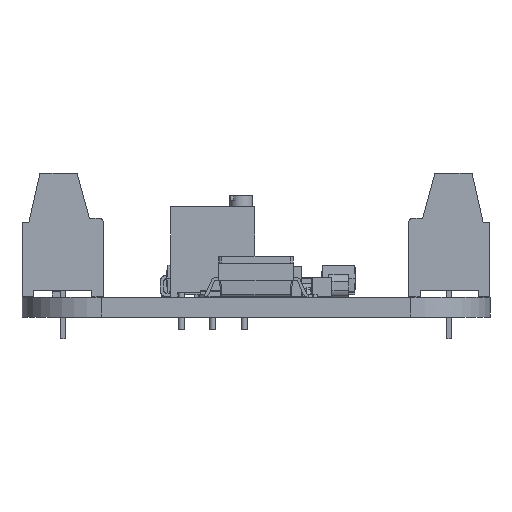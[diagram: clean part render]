
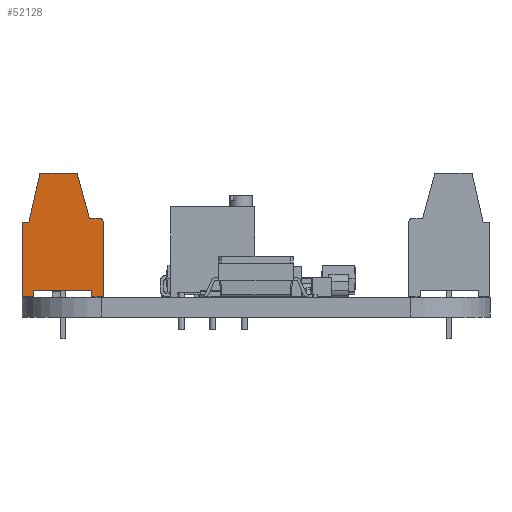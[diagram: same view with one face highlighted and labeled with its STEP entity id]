
A CAD part, front view. The second image highlights one B-rep face of the part: STEP entity #52128.
In plain terms, the highlighted planar face has unit normal (0, -1, 0) as drawn and (1, 0, 0) by its records, which use the part's own axes.
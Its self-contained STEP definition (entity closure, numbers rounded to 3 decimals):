
#16 = LINE ( 'NONE', #38557, #14002 ) ;
#371 = CARTESIAN_POINT ( 'NONE',  ( 4.04, -2.35, -9.5 ) ) ;
#465 = LINE ( 'NONE', #23152, #3005 ) ;
#1312 = VERTEX_POINT ( 'NONE', #33992 ) ;
#1932 = CARTESIAN_POINT ( 'NONE',  ( 4.04, 2.95, -3.65 ) ) ;
#1952 = EDGE_CURVE ( 'NONE', #24287, #38893, #28465, .T. ) ;
#2384 = EDGE_CURVE ( 'NONE', #56903, #17469, #16110, .T. ) ;
#3005 = VECTOR ( 'NONE', #60212, 1000. ) ;
#3838 = VECTOR ( 'NONE', #67532, 1000. ) ;
#4138 = AXIS2_PLACEMENT_3D ( 'NONE', #20675, #62319, #47189 ) ;
#4534 = CARTESIAN_POINT ( 'NONE',  ( 4.04, -2.75, -4. ) ) ;
#4805 = DIRECTION ( 'NONE',  ( 0., 1., 0. ) ) ;
#5086 = EDGE_CURVE ( 'NONE', #15614, #25276, #16, .T. ) ;
#6290 = LINE ( 'NONE', #27378, #57010 ) ;
#6378 = EDGE_CURVE ( 'NONE', #25276, #34164, #19396, .T. ) ;
#7087 = ORIENTED_EDGE ( 'NONE', *, *, #2384, .F. ) ;
#7763 = CARTESIAN_POINT ( 'NONE',  ( 4.04, 1.15, 0. ) ) ;
#7793 = ORIENTED_EDGE ( 'NONE', *, *, #5086, .F. ) ;
#7873 = EDGE_CURVE ( 'NONE', #34164, #24287, #20701, .T. ) ;
#8668 = CARTESIAN_POINT ( 'NONE',  ( 4.04, 2.35, -9.5 ) ) ;
#13405 = ORIENTED_EDGE ( 'NONE', *, *, #50132, .F. ) ;
#14002 = VECTOR ( 'NONE', #17944, 1000. ) ;
#14550 = CARTESIAN_POINT ( 'NONE',  ( 4.04, -3.25, 0. ) ) ;
#14774 = DIRECTION ( 'NONE',  ( 0., 0., 1. ) ) ;
#14830 = VERTEX_POINT ( 'NONE', #64432 ) ;
#15614 = VERTEX_POINT ( 'NONE', #55909 ) ;
#15852 = DIRECTION ( 'NONE',  ( 0., 0., -1. ) ) ;
#16110 = CIRCLE ( 'NONE', #26938, 0.3 ) ;
#16645 = VECTOR ( 'NONE', #56237, 1000. ) ;
#16652 = LINE ( 'NONE', #34708, #55090 ) ;
#16978 = EDGE_CURVE ( 'NONE', #57117, #23549, #30093, .T. ) ;
#17032 = VECTOR ( 'NONE', #59746, 1000. ) ;
#17201 = EDGE_CURVE ( 'NONE', #43767, #15614, #465, .T. ) ;
#17469 = VERTEX_POINT ( 'NONE', #27247 ) ;
#17944 = DIRECTION ( 'NONE',  ( 0., 0., 1. ) ) ;
#18117 = EDGE_CURVE ( 'NONE', #48507, #14830, #16652, .T. ) ;
#18386 = EDGE_CURVE ( 'NONE', #17469, #43767, #53386, .T. ) ;
#18661 = ORIENTED_EDGE ( 'NONE', *, *, #18386, .F. ) ;
#19396 = LINE ( 'NONE', #46252, #3838 ) ;
#19398 = EDGE_LOOP ( 'NONE', ( #28362, #60716, #13405, #24752, #43853, #40510, #7793, #57174, #18661, #7087, #52292, #57812, #47531 ) ) ;
#19808 = PLANE ( 'NONE',  #4138 ) ;
#20675 = CARTESIAN_POINT ( 'NONE',  ( 4.04, 0., 0. ) ) ;
#20701 = LINE ( 'NONE', #28836, #16645 ) ;
#23152 = CARTESIAN_POINT ( 'NONE',  ( 4.04, 0., -10. ) ) ;
#23549 = VERTEX_POINT ( 'NONE', #59697 ) ;
#24287 = VERTEX_POINT ( 'NONE', #61788 ) ;
#24752 = ORIENTED_EDGE ( 'NONE', *, *, #1952, .F. ) ;
#25276 = VERTEX_POINT ( 'NONE', #8668 ) ;
#26938 = AXIS2_PLACEMENT_3D ( 'NONE', #60236, #54960, #34197 ) ;
#27247 = CARTESIAN_POINT ( 'NONE',  ( 4.04, 3.25, -3.95 ) ) ;
#27378 = CARTESIAN_POINT ( 'NONE',  ( 4.04, 0., 0. ) ) ;
#28336 = EDGE_CURVE ( 'NONE', #14830, #56903, #51620, .T. ) ;
#28362 = ORIENTED_EDGE ( 'NONE', *, *, #16978, .F. ) ;
#28465 = LINE ( 'NONE', #54461, #17032 ) ;
#28836 = CARTESIAN_POINT ( 'NONE',  ( 4.04, -2.35, 0. ) ) ;
#30093 = LINE ( 'NONE', #4534, #45579 ) ;
#31317 = DIRECTION ( 'NONE',  ( 0., 0.22, 0.976 ) ) ;
#33992 = CARTESIAN_POINT ( 'NONE',  ( 4.04, -3.25, -4. ) ) ;
#34164 = VERTEX_POINT ( 'NONE', #371 ) ;
#34197 = DIRECTION ( 'NONE',  ( 0., 0., -1. ) ) ;
#34708 = CARTESIAN_POINT ( 'NONE',  ( 4.04, 1.15, 0. ) ) ;
#36033 = CARTESIAN_POINT ( 'NONE',  ( 4.04, -3.25, -4. ) ) ;
#37777 = CARTESIAN_POINT ( 'NONE',  ( 4.04, 3.25, -10. ) ) ;
#38557 = CARTESIAN_POINT ( 'NONE',  ( 4.04, 2.35, 0. ) ) ;
#38882 = LINE ( 'NONE', #14550, #51143 ) ;
#38893 = VERTEX_POINT ( 'NONE', #41331 ) ;
#40510 = ORIENTED_EDGE ( 'NONE', *, *, #6378, .F. ) ;
#41331 = CARTESIAN_POINT ( 'NONE',  ( 4.04, -3.25, -10. ) ) ;
#43767 = VERTEX_POINT ( 'NONE', #37777 ) ;
#43853 = ORIENTED_EDGE ( 'NONE', *, *, #7873, .F. ) ;
#45274 = EDGE_CURVE ( 'NONE', #23549, #48507, #6290, .T. ) ;
#45445 = LINE ( 'NONE', #36033, #55272 ) ;
#45579 = VECTOR ( 'NONE', #31317, 1000. ) ;
#45659 = EDGE_CURVE ( 'NONE', #1312, #57117, #45445, .T. ) ;
#46252 = CARTESIAN_POINT ( 'NONE',  ( 4.04, 0., -9.5 ) ) ;
#47189 = DIRECTION ( 'NONE',  ( 0., 0., 1. ) ) ;
#47531 = ORIENTED_EDGE ( 'NONE', *, *, #45274, .F. ) ;
#48507 = VERTEX_POINT ( 'NONE', #7763 ) ;
#50132 = EDGE_CURVE ( 'NONE', #38893, #1312, #38882, .T. ) ;
#51143 = VECTOR ( 'NONE', #14774, 1000. ) ;
#51307 = DIRECTION ( 'NONE',  ( 0., 1., 0. ) ) ;
#51620 = LINE ( 'NONE', #67719, #64654 ) ;
#51755 = VECTOR ( 'NONE', #15852, 1000. ) ;
#52128 = ADVANCED_FACE ( 'NONE', ( #56861 ), #19808, .F. ) ;
#52292 = ORIENTED_EDGE ( 'NONE', *, *, #28336, .F. ) ;
#53088 = CARTESIAN_POINT ( 'NONE',  ( 4.04, 3.25, 0. ) ) ;
#53173 = DIRECTION ( 'NONE',  ( 0., 1., 0. ) ) ;
#53386 = LINE ( 'NONE', #53088, #51755 ) ;
#54461 = CARTESIAN_POINT ( 'NONE',  ( 4.04, 0., -10. ) ) ;
#54960 = DIRECTION ( 'NONE',  ( -1., 0., 0. ) ) ;
#55090 = VECTOR ( 'NONE', #60977, 1000. ) ;
#55272 = VECTOR ( 'NONE', #51307, 1000. ) ;
#55909 = CARTESIAN_POINT ( 'NONE',  ( 4.04, 2.35, -10. ) ) ;
#56237 = DIRECTION ( 'NONE',  ( 0., 0., -1. ) ) ;
#56861 = FACE_OUTER_BOUND ( 'NONE', #19398, .T. ) ;
#56903 = VERTEX_POINT ( 'NONE', #1932 ) ;
#57010 = VECTOR ( 'NONE', #53173, 1000. ) ;
#57117 = VERTEX_POINT ( 'NONE', #62497 ) ;
#57174 = ORIENTED_EDGE ( 'NONE', *, *, #17201, .F. ) ;
#57812 = ORIENTED_EDGE ( 'NONE', *, *, #18117, .F. ) ;
#59697 = CARTESIAN_POINT ( 'NONE',  ( 4.04, -1.85, 0. ) ) ;
#59746 = DIRECTION ( 'NONE',  ( 0., -1., 0. ) ) ;
#60212 = DIRECTION ( 'NONE',  ( 0., -1., 0. ) ) ;
#60236 = CARTESIAN_POINT ( 'NONE',  ( 4.04, 2.95, -3.95 ) ) ;
#60716 = ORIENTED_EDGE ( 'NONE', *, *, #45659, .F. ) ;
#60977 = DIRECTION ( 'NONE',  ( 0., 0.264, -0.964 ) ) ;
#61788 = CARTESIAN_POINT ( 'NONE',  ( 4.04, -2.35, -10. ) ) ;
#62319 = DIRECTION ( 'NONE',  ( -1., 0., 0. ) ) ;
#62497 = CARTESIAN_POINT ( 'NONE',  ( 4.04, -2.75, -4. ) ) ;
#64432 = CARTESIAN_POINT ( 'NONE',  ( 4.04, 2.15, -3.65 ) ) ;
#64654 = VECTOR ( 'NONE', #4805, 1000. ) ;
#67532 = DIRECTION ( 'NONE',  ( 0., -1., 0. ) ) ;
#67719 = CARTESIAN_POINT ( 'NONE',  ( 4.04, 0., -3.65 ) ) ;
